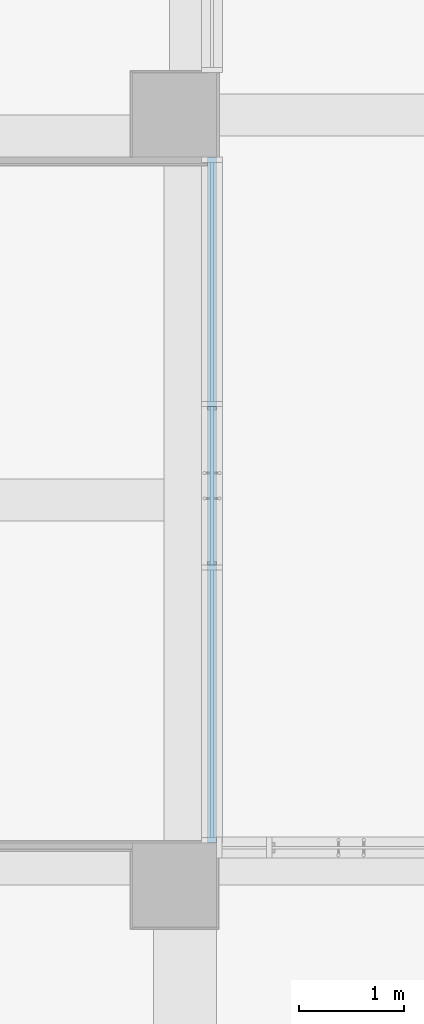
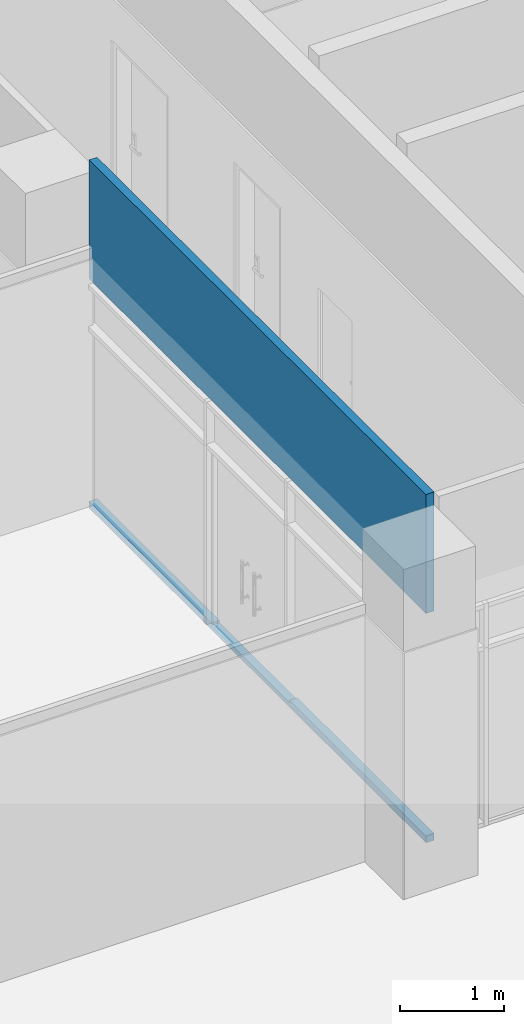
# One storey, part 43 of 81: 1 wall, 2 openings.
"""IFC2X3 building model written with IfcOpenShell, lengths in millimetres."""

from ifc_helpers import new_model, entity, si_unit, converted_unit, derived_unit, direction, frame, frame_2d, origin, place, context, subcontext, project, spatial, polyline, rectangle, outline, extrude, material, layer, layer_set, layer_usage, type_object, element, save


model = new_model("IFC2X3")

# Units and contexts
model_context = context("Model", 3, precision=0.01, world=origin(), true_north=direction((6.123031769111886e-17, 1.0)))
body_context = subcontext(model_context, "Body", "Model", "MODEL_VIEW")
ifc_project = project(units=[si_unit("LENGTHUNIT", "METRE", prefix="MILLI"), si_unit("AREAUNIT", "SQUARE_METRE"), si_unit("VOLUMEUNIT", "CUBIC_METRE"), converted_unit("PLANEANGLEUNIT", "DEGREE", entity("IfcRatioMeasure", 0.017453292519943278), si_unit("PLANEANGLEUNIT", "RADIAN"), dimensions=[0, 0, 0, 0, 0, 0, 0]), si_unit("MASSUNIT", "GRAM", prefix="KILO"), derived_unit("MASSDENSITYUNIT", [(si_unit("MASSUNIT", "GRAM", prefix="KILO"), 1), (si_unit("LENGTHUNIT", "METRE"), -3)]), derived_unit("MOMENTOFINERTIAUNIT", [(si_unit("LENGTHUNIT", "METRE"), 4)]), si_unit("TIMEUNIT", "SECOND"), si_unit("FREQUENCYUNIT", "HERTZ"), si_unit("THERMODYNAMICTEMPERATUREUNIT", "DEGREE_CELSIUS"), derived_unit("THERMALTRANSMITTANCEUNIT", [(si_unit("MASSUNIT", "GRAM", prefix="KILO"), 1), (si_unit("THERMODYNAMICTEMPERATUREUNIT", "KELVIN"), -1), (si_unit("TIMEUNIT", "SECOND"), -3)]), derived_unit("VOLUMETRICFLOWRATEUNIT", [(si_unit("LENGTHUNIT", "METRE"), 3), (si_unit("TIMEUNIT", "SECOND"), -1)]), derived_unit("MASSFLOWRATEUNIT", [(si_unit("MASSUNIT", "GRAM", prefix="KILO"), 1), (si_unit("TIMEUNIT", "SECOND"), -1)]), derived_unit("ROTATIONALFREQUENCYUNIT", [(si_unit("TIMEUNIT", "SECOND"), -1)]), si_unit("ELECTRICCURRENTUNIT", "AMPERE"), si_unit("ELECTRICVOLTAGEUNIT", "VOLT"), si_unit("POWERUNIT", "WATT"), si_unit("FORCEUNIT", "NEWTON", prefix="KILO"), si_unit("ILLUMINANCEUNIT", "LUX"), si_unit("LUMINOUSFLUXUNIT", "LUMEN"), si_unit("LUMINOUSINTENSITYUNIT", "CANDELA"), derived_unit("USERDEFINED", [(si_unit("MASSUNIT", "GRAM", prefix="KILO"), -1), (si_unit("LENGTHUNIT", "METRE"), -2), (si_unit("TIMEUNIT", "SECOND"), 3), (si_unit("LUMINOUSFLUXUNIT", "LUMEN"), 1)]), derived_unit("SOUNDPOWERUNIT", [(si_unit("MASSUNIT", "GRAM", prefix="KILO"), 1), (si_unit("LENGTHUNIT", "METRE"), 2), (si_unit("TIMEUNIT", "SECOND"), -3)]), derived_unit("SOUNDPRESSUREUNIT", [(si_unit("MASSUNIT", "GRAM", prefix="KILO"), 1), (si_unit("LENGTHUNIT", "METRE"), -1), (si_unit("TIMEUNIT", "SECOND"), -2)]), derived_unit("LINEARVELOCITYUNIT", [(si_unit("LENGTHUNIT", "METRE"), 1), (si_unit("TIMEUNIT", "SECOND"), -1)]), si_unit("PRESSUREUNIT", "PASCAL"), derived_unit("USERDEFINED", [(si_unit("LENGTHUNIT", "METRE"), -2), (si_unit("MASSUNIT", "GRAM", prefix="KILO"), 1), (si_unit("TIMEUNIT", "SECOND"), -2)]), derived_unit("LINEARFORCEUNIT", [(si_unit("MASSUNIT", "GRAM", prefix="KILO"), 1), (si_unit("LENGTHUNIT", "METRE"), 1), (si_unit("TIMEUNIT", "SECOND"), -2), (si_unit("LENGTHUNIT", "METRE"), -1)]), derived_unit("PLANARFORCEUNIT", [(si_unit("MASSUNIT", "GRAM", prefix="KILO"), 1), (si_unit("LENGTHUNIT", "METRE"), 1), (si_unit("TIMEUNIT", "SECOND"), -2), (si_unit("LENGTHUNIT", "METRE"), -2)])], contexts=[model_context])

# Site, building, storey
site_placement = place(None, frame((-14167.972527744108, -657.2125860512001, 0.0)))
site = spatial("IfcSite", under=ifc_project, at=site_placement, Name="Default", CompositionType="ELEMENT")
building_placement = place(site_placement, origin())
building = spatial("IfcBuilding", under=site, at=building_placement, Name="Sample Building", CompositionType="ELEMENT")
storey_placement = place(building_placement, frame((0.0, 0.0, 13400.0)))
storey = spatial("IfcBuildingStorey", under=building, at=storey_placement, Name="지상 4층", CompositionType="ELEMENT", Elevation=13400.00000000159)

# Wall, openings
ifc_material = material(Name="KBIMS-시멘트 벽돌")
ifc_layer = layer(ifc_material, 90.0)
ifc_layer_set = layer_set([ifc_layer], Name="기본 벽:WA211-시멘트벽돌(일반) 벽 (0.5B) 90mm")
ifc_layer_usage = layer_usage(ifc_layer_set, "AXIS2", "NEGATIVE", 45.0)
wall_type = type_object("IfcWallType", Name="기본 벽:WA211-시멘트벽돌(일반) 벽 (0.5B) 90mm", PredefinedType="STANDARD", material=ifc_layer_set)
wall_placement = place(storey_placement, frame((27522.95510516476, 19557.212617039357, -2.3000097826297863e-09), z_axis=(0.0, 0.0, 1.0), x_axis=(0.0, -1.0, 0.0)))
wall = element("IfcWallStandardCase", 1, at=wall_placement, inside=storey, type_object=wall_type, material=ifc_layer_usage, Name="기본 벽:WA211-시멘트벽돌(일반) 벽 (0.5B) 90mm", ObjectType="기본 벽:WA211-시멘트벽돌(일반) 벽 (0.5B) 90mm", context=body_context, shape_type="SweptSolid", body=[
    extrude(rectangle(XDim=6499.999999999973, YDim=90.0000000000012, at=frame_2d((3249.9999999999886, -2.1458390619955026e-12), x_axis=(-1.0, 0.0))), origin(), (0.0, 0.0, 1.0), 4100.000000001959),
])
opening_1_placement = place(wall_placement, origin())
element("IfcOpeningElement", 2, at=opening_1_placement, cuts=wall, Name="기본 벽:WA211-시멘트벽돌(일반) 벽 (0.5B) 90mm", ObjectType="Opening", context=body_context, shape_type="SweptSolid", body=[
    extrude(outline(polyline([(-1446.2500000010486, -3317.482503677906), (1173.7500000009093, -3317.482503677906), (1173.7500000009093, -682.5174963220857), (-901.2500000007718, -682.5174963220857), (-901.2500000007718, 817.4825036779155), (1173.7500000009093, 817.4825036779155), (1173.7500000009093, 3182.5174963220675), (-1446.2500000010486, 3182.5174963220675), (-1446.2500000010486, -3317.482503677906)])), frame((3182.517496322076, -197.40000000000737, 1253.7500000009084), z_axis=(0.0, 1.0, 0.0), x_axis=(0.0, 0.0, -1.0)), (0.0, 0.0, 1.0), 394.8000000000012),
])
opening_2_placement = place(wall_placement, frame((2365.0349926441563, -45.0, 55.0)))
element("IfcOpeningElement", 3, at=opening_2_placement, cuts=wall, Name="DR121-쌍여닫이문(철재, 일반, 양개):DR121-쌍여닫이문(유리, 일반, 양개) 1500x2100mm:1", ObjectType="Opening", context=body_context, shape_type="SweptSolid", body=[
    extrude(rectangle(XDim=2099.9999999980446, YDim=1500.0, at=frame_2d((1049.9999999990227, 750.0), x_axis=(1.0, 0.0))), frame((0.0, 0.0, 0.0), z_axis=(0.0, 1.0, 0.0), x_axis=(0.0, 0.0, 1.0)), (0.0, 0.0, 1.0), 90.0),
])

save(model, "model.ifc")
